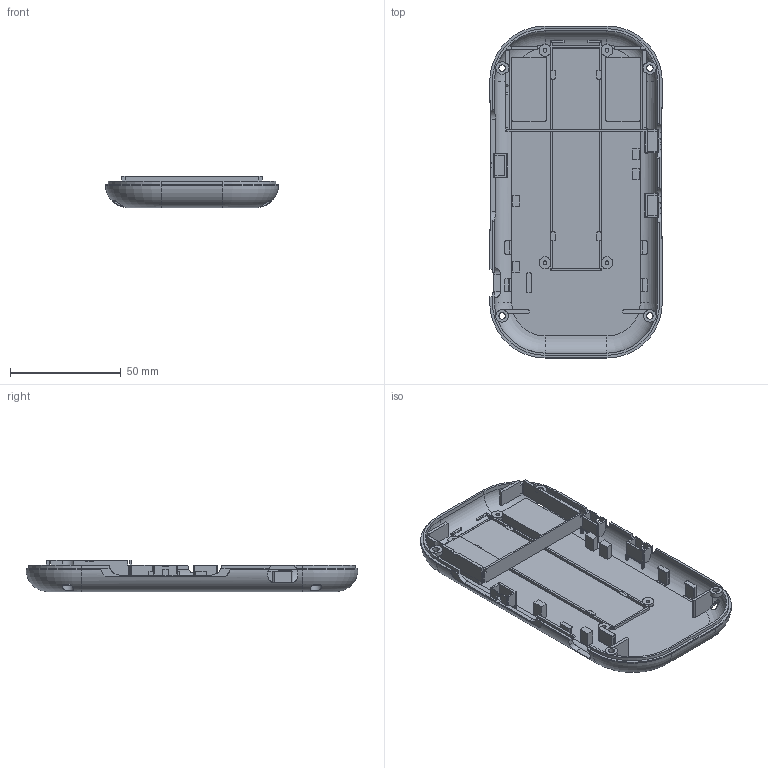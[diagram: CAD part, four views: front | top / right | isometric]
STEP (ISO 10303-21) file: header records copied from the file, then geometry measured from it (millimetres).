
FILE_DESCRIPTION(('Open CASCADE Model'),'2;1');
FILE_NAME('C27_R2_02_Back_Shell_Chalk','2026-09-10T02:58:37',('Author'), ('Open CASCADE'),'Open CASCADE STEP processor 7.9','build123d', 'Unknown');
FILE_SCHEMA(('AUTOMOTIVE_DESIGN { 1 0 10303 214 1 1 1 1 }'));
Length unit declared in the file: millimetre
Products named in the file (1): C27_R2_02_Back_Shell_Chalk
Bounding box: 78 x 150 x 14.15 mm (x, y, z)
Volume: 33539.1 mm3; surface area: 34788.4 mm2
Topology: 1 solids, 1 shells, 1268 faces, 3655 edges, 2429 vertices
Faces by surface type: plane 633, bspline 352, cylinder 271, torus 8, cone 4
Full cylindrical faces by diameter (mm): 1.7 x4, 2.9 x4, 5.4 x4
Entity records: 103595 total; most frequent: CARTESIAN_POINT 37564, DIRECTION 9946, ORIENTED_EDGE 7310, PCURVE 7310, DEFINITIONAL_REPRESENTATION 7310, LINE 6486, VECTOR 6486, EDGE_CURVE 3655
